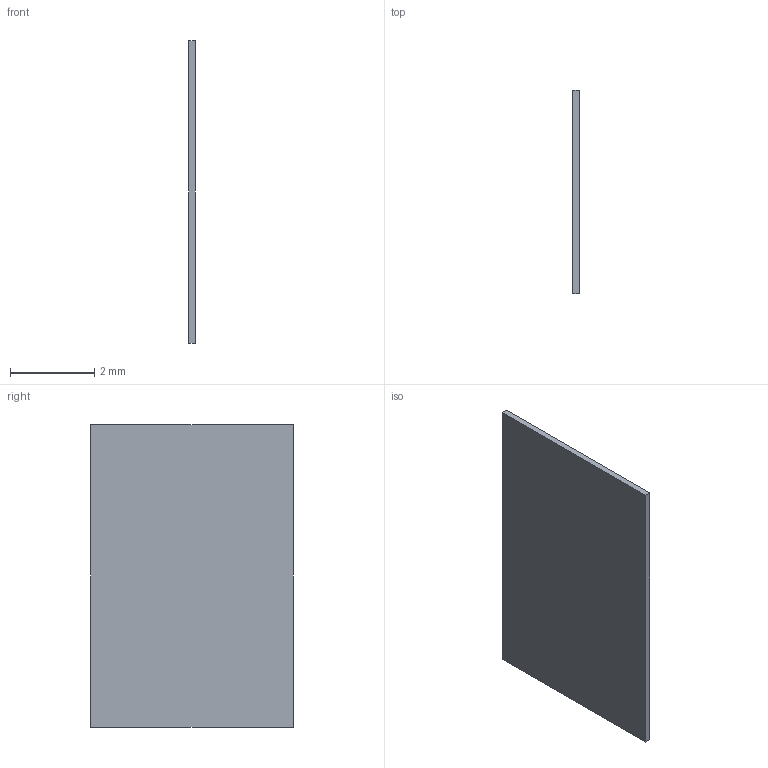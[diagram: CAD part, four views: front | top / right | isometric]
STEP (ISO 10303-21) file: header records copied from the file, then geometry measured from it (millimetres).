
FILE_DESCRIPTION(/* description */ (''),/* implementation_level */ '2;1');
FILE_NAME(/* name */ 'C28_R3_Volume_Up_Cassette_Backing_0p15.step',/* time_stamp */ '2026-09-10T17:49:58-07:00',/* author */ (''),/* organization */ (''),/* preprocessor_version */ 'ST-DEVELOPER v20.1',/* originating_system */ 'Autodesk Translation Framework v15.8.0.0',/* authorisation */ '');
FILE_SCHEMA (('AUTOMOTIVE_DESIGN { 1 0 10303 214 3 1 1 }'));
Length unit declared in the file: millimetre
Products named in the file (1): 2026-09-10-17-49-58-625
Bounding box: 0.15 x 4.8 x 7.15 mm (x, y, z)
Volume: 5.1 mm3; surface area: 72.2 mm2
Topology: 1 solids, 1 shells, 6 faces, 12 edges, 8 vertices
Faces by surface type: plane 6
Entity records: 189 total; most frequent: CARTESIAN_POINT 27, DIRECTION 26, ORIENTED_EDGE 24, LINE 12, VECTOR 12, EDGE_CURVE 12, VERTEX_POINT 8, AXIS2_PLACEMENT_3D 7
